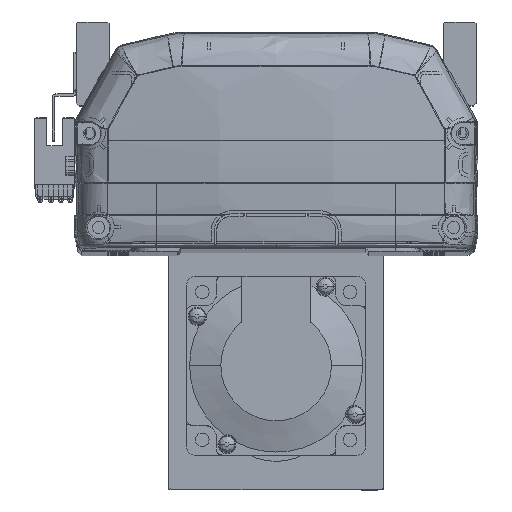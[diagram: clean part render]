
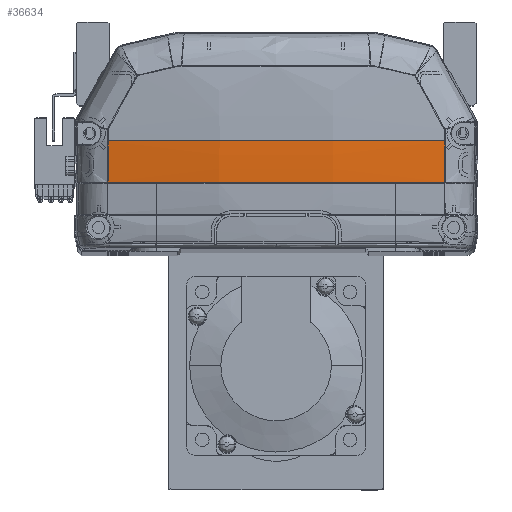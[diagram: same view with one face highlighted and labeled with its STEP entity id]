
A CAD part, top view. The second image highlights one B-rep face of the part: STEP entity #36634.
In plain terms, the highlighted free-form (B-spline) face has degree [3, 3] with [4, 4] control points.
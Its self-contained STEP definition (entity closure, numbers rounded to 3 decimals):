
#543 = ORIENTED_EDGE ( 'NONE', *, *, #18239, .F. ) ;
#1816 = CARTESIAN_POINT ( 'NONE',  ( 47.432, 22.225, -6.377 ) ) ;
#2118 = CARTESIAN_POINT ( 'NONE',  ( -57.335, 26.762, -4.928 ) ) ;
#2438 = EDGE_CURVE ( 'NONE', #41811, #17310, #32540, .T. ) ;
#2579 = CARTESIAN_POINT ( 'NONE',  ( 56.652, 26.806, -5.044 ) ) ;
#4681 = B_SPLINE_CURVE_WITH_KNOTS ( 'NONE', 3,
 ( #55010, #1816, #6287, #41662, #32722, #6100, #37186, #10553, #36747, #19060, #7195, #34193, #49710 ),
 .UNSPECIFIED., .F., .F.,
 ( 4, 2, 2, 1, 2, 2, 4 ),
 ( 0., 0.25, 0.375, 0.438, 0.469, 0.5, 1. ),
 .UNSPECIFIED. ) ;
#6100 = CARTESIAN_POINT ( 'NONE',  ( 11.954, 22.225, -9.367 ) ) ;
#6287 = CARTESIAN_POINT ( 'NONE',  ( 38.071, 22.225, -7.566 ) ) ;
#6397 = CARTESIAN_POINT ( 'NONE',  ( -57.335, 22.148, -4.7 ) ) ;
#6848 = VERTEX_POINT ( 'NONE', #35880 ) ;
#7195 = CARTESIAN_POINT ( 'NONE',  ( -19.28, 22.225, -9.565 ) ) ;
#7657 = CARTESIAN_POINT ( 'NONE',  ( -56.661, 22.225, -4.818 ) ) ;
#8051 = ORIENTED_EDGE ( 'NONE', *, *, #26582, .T. ) ;
#10262 = DIRECTION ( 'NONE',  ( 0., 1., 0. ) ) ;
#10553 = CARTESIAN_POINT ( 'NONE',  ( 4.761, 22.225, -9.537 ) ) ;
#10628 = CARTESIAN_POINT ( 'NONE',  ( 0., 36., 330.833 ) ) ;
#11260 = CARTESIAN_POINT ( 'NONE',  ( 19.295, 31.274, -11.535 ) ) ;
#11522 = DIRECTION ( 'NONE',  ( -1., 0., 0. ) ) ;
#12916 = ORIENTED_EDGE ( 'NONE', *, *, #2438, .F. ) ;
#14703 = DIRECTION ( 'NONE',  ( 0., 0., -1. ) ) ;
#14810 = CARTESIAN_POINT ( 'NONE',  ( -56.647, 31.405, -5.158 ) ) ;
#15130 = CARTESIAN_POINT ( 'NONE',  ( -57.335, 31.38, -5.042 ) ) ;
#15731 = CARTESIAN_POINT ( 'NONE',  ( -19.295, 21.828, -11.186 ) ) ;
#16811 = VERTEX_POINT ( 'NONE', #32752 ) ;
#17310 = VERTEX_POINT ( 'NONE', #32314 ) ;
#17795 = B_SPLINE_CURVE_WITH_KNOTS ( 'NONE', 3,
 ( #55189, #2579, #24930, #29590 ),
 .UNSPECIFIED., .F., .F.,
 ( 4, 4 ),
 ( 0., 1. ),
 .UNSPECIFIED. ) ;
#18239 = EDGE_CURVE ( 'NONE', #48937, #16811, #54166, .T. ) ;
#18957 = CARTESIAN_POINT ( 'NONE',  ( 6452.613, 35.969, -5.158 ) ) ;
#19060 = CARTESIAN_POINT ( 'NONE',  ( 1.152, 22.225, -9.568 ) ) ;
#20394 = CARTESIAN_POINT ( 'NONE',  ( 57.335, 31.38, -5.042 ) ) ;
#20436 = FACE_OUTER_BOUND ( 'NONE', #22509, .T. ) ;
#21774 =( BOUNDED_SURFACE ( )  B_SPLINE_SURFACE ( 3, 3, ( 
 ( #51463, #42540, #20394, #55335 ),
 ( #50700, #55126, #11260, #41775 ),
 ( #15731, #28764, #37673, #24487 ),
 ( #6397, #2118, #15130, #55721 ) ),
 .UNSPECIFIED., .F., .F., .T. ) 
 B_SPLINE_SURFACE_WITH_KNOTS ( ( 4, 4 ),
 ( 4, 4 ),
 ( 0., 1. ),
 ( 0., 1. ),
 .UNSPECIFIED. ) 
 GEOMETRIC_REPRESENTATION_ITEM ( )  RATIONAL_B_SPLINE_SURFACE ( (
 ( 1., 1., 1., 1.),
 ( 0.99, 0.99, 0.99, 0.99),
 ( 0.99, 0.99, 0.99, 0.99),
 ( 1., 1., 1., 1.) ) ) 
 REPRESENTATION_ITEM ( '' )  SURFACE ( )  );
#22509 = EDGE_LOOP ( 'NONE', ( #38099, #543, #31333, #8051, #12916 ) ) ;
#23832 = DIRECTION ( 'NONE',  ( 0., 0., -1. ) ) ;
#24487 = CARTESIAN_POINT ( 'NONE',  ( -19.295, 36., -11.535 ) ) ;
#24930 = CARTESIAN_POINT ( 'NONE',  ( 56.647, 31.387, -5.158 ) ) ;
#26582 = EDGE_CURVE ( 'NONE', #6848, #17310, #4681, .T. ) ;
#27868 = CARTESIAN_POINT ( 'NONE',  ( -56.647, 36., -5.158 ) ) ;
#28764 = CARTESIAN_POINT ( 'NONE',  ( -19.295, 26.549, -11.419 ) ) ;
#29590 = CARTESIAN_POINT ( 'NONE',  ( 56.647, 35.969, -5.158 ) ) ;
#31333 = ORIENTED_EDGE ( 'NONE', *, *, #50165, .F. ) ;
#32314 = CARTESIAN_POINT ( 'NONE',  ( -56.661, 22.225, -4.818 ) ) ;
#32540 = B_SPLINE_CURVE_WITH_KNOTS ( 'NONE', 3,
 ( #27868, #14810, #50017, #7657 ),
 .UNSPECIFIED., .F., .F.,
 ( 4, 4 ),
 ( 0., 1. ),
 .UNSPECIFIED. ) ;
#32722 = CARTESIAN_POINT ( 'NONE',  ( 19.121, 22.225, -9.064 ) ) ;
#32752 = CARTESIAN_POINT ( 'NONE',  ( 56.647, 36., -5.158 ) ) ;
#33190 = AXIS2_PLACEMENT_3D ( 'NONE', #18957, #23832, #11522 ) ;
#33539 = AXIS2_PLACEMENT_3D ( 'NONE', #10628, #10262, #14703 ) ;
#34193 = CARTESIAN_POINT ( 'NONE',  ( -38.235, 22.225, -7.93 ) ) ;
#35880 = CARTESIAN_POINT ( 'NONE',  ( 56.661, 22.225, -4.818 ) ) ;
#36634 = ADVANCED_FACE ( 'NONE', ( #20436 ), #21774, .T. ) ;
#36747 = CARTESIAN_POINT ( 'NONE',  ( 2.357, 22.225, -9.562 ) ) ;
#37186 = CARTESIAN_POINT ( 'NONE',  ( 8.363, 22.225, -9.48 ) ) ;
#37673 = CARTESIAN_POINT ( 'NONE',  ( -19.295, 31.274, -11.535 ) ) ;
#38099 = ORIENTED_EDGE ( 'NONE', *, *, #39263, .F. ) ;
#38208 = CIRCLE ( 'NONE', #33539, 340.733 ) ;
#39263 = EDGE_CURVE ( 'NONE', #16811, #41811, #38208, .T. ) ;
#40981 = CARTESIAN_POINT ( 'NONE',  ( -56.647, 36., -5.158 ) ) ;
#41338 = CARTESIAN_POINT ( 'NONE',  ( 56.647, 35.969, -5.158 ) ) ;
#41662 = CARTESIAN_POINT ( 'NONE',  ( 23.877, 22.225, -8.763 ) ) ;
#41775 = CARTESIAN_POINT ( 'NONE',  ( 19.295, 36., -11.535 ) ) ;
#41811 = VERTEX_POINT ( 'NONE', #40981 ) ;
#42540 = CARTESIAN_POINT ( 'NONE',  ( 57.335, 26.762, -4.928 ) ) ;
#48937 = VERTEX_POINT ( 'NONE', #41338 ) ;
#49710 = CARTESIAN_POINT ( 'NONE',  ( -56.661, 22.225, -4.818 ) ) ;
#50017 = CARTESIAN_POINT ( 'NONE',  ( -56.652, 26.814, -5.045 ) ) ;
#50165 = EDGE_CURVE ( 'NONE', #6848, #48937, #17795, .T. ) ;
#50700 = CARTESIAN_POINT ( 'NONE',  ( 19.295, 21.828, -11.186 ) ) ;
#51463 = CARTESIAN_POINT ( 'NONE',  ( 57.335, 22.148, -4.7 ) ) ;
#54166 = CIRCLE ( 'NONE', #33190, 6395.966 ) ;
#55010 = CARTESIAN_POINT ( 'NONE',  ( 56.661, 22.225, -4.818 ) ) ;
#55126 = CARTESIAN_POINT ( 'NONE',  ( 19.295, 26.549, -11.419 ) ) ;
#55189 = CARTESIAN_POINT ( 'NONE',  ( 56.661, 22.225, -4.818 ) ) ;
#55335 = CARTESIAN_POINT ( 'NONE',  ( 57.335, 36., -5.042 ) ) ;
#55721 = CARTESIAN_POINT ( 'NONE',  ( -57.335, 36., -5.042 ) ) ;
